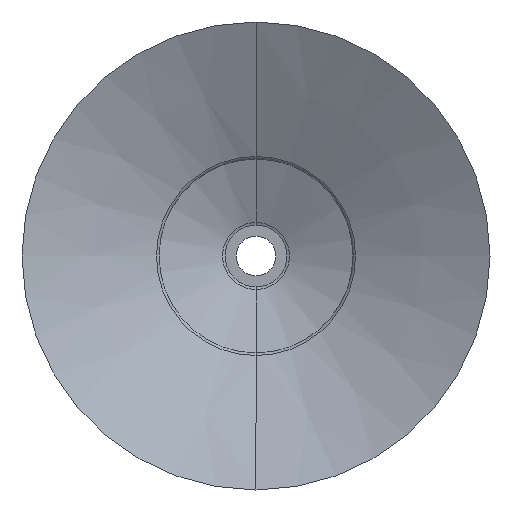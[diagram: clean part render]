
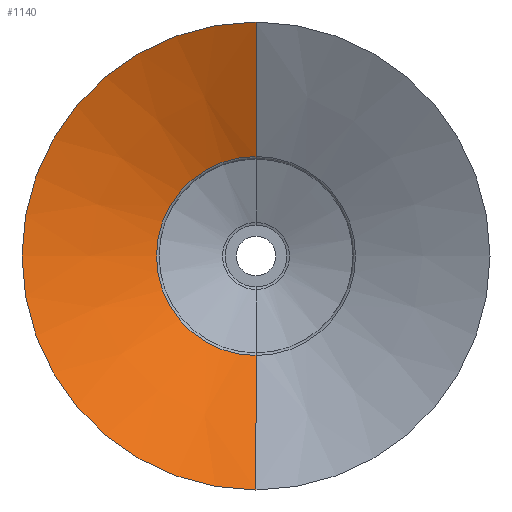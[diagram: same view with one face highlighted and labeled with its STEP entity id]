
A CAD part, front view. The second image highlights one B-rep face of the part: STEP entity #1140.
In plain terms, the highlighted conical face has half-angle 64.057 degrees and reference radius 9.977 mm.
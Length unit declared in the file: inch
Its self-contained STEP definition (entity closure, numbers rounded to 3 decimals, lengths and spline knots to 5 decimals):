
#28 = EDGE_CURVE ( 'NONE', #898, #1352, #762, .T. ) ;
#59 = CONICAL_SURFACE ( 'NONE', #2401, 0.39278, 1.118 ) ;
#101 = ORIENTED_EDGE ( 'NONE', *, *, #2704, .T. ) ;
#109 = CARTESIAN_POINT ( 'NONE',  ( -0.55118, 0., 0. ) ) ;
#128 = EDGE_CURVE ( 'NONE', #952, #1772, #795, .T. ) ;
#210 = VECTOR ( 'NONE', #528, 39.37008 ) ;
#397 = EDGE_CURVE ( 'NONE', #1352, #952, #1508, .T. ) ;
#528 = DIRECTION ( 'NONE',  ( 0.899, 0.437, 0. ) ) ;
#545 = DIRECTION ( 'NONE',  ( 0., -1., 0. ) ) ;
#603 = CARTESIAN_POINT ( 'NONE',  ( 0.55118, 0., 0. ) ) ;
#762 = CIRCLE ( 'NONE', #1224, 0.55118 ) ;
#779 = CARTESIAN_POINT ( 'NONE',  ( 0., 0.15412, 0. ) ) ;
#784 = LINE ( 'NONE', #109, #210 ) ;
#795 = CIRCLE ( 'NONE', #2696, 0.23438 ) ;
#805 = CARTESIAN_POINT ( 'NONE',  ( 0.55118, 0., 0. ) ) ;
#812 = CARTESIAN_POINT ( 'NONE',  ( -0.23438, 0.15412, 0. ) ) ;
#898 = VERTEX_POINT ( 'NONE', #1710 ) ;
#952 = VERTEX_POINT ( 'NONE', #1956 ) ;
#967 = CARTESIAN_POINT ( 'NONE',  ( 0., 0., 0. ) ) ;
#1033 = CARTESIAN_POINT ( 'NONE',  ( 0., 0.07706, 0. ) ) ;
#1140 = ADVANCED_FACE ( 'NONE', ( #2575 ), #59, .F. ) ;
#1224 = AXIS2_PLACEMENT_3D ( 'NONE', #967, #2599, #2617 ) ;
#1315 = ORIENTED_EDGE ( 'NONE', *, *, #128, .F. ) ;
#1352 = VERTEX_POINT ( 'NONE', #603 ) ;
#1389 = ORIENTED_EDGE ( 'NONE', *, *, #397, .F. ) ;
#1443 = DIRECTION ( 'NONE',  ( 0., -1., 0. ) ) ;
#1449 = VECTOR ( 'NONE', #1686, 39.37008 ) ;
#1508 = LINE ( 'NONE', #805, #1449 ) ;
#1686 = DIRECTION ( 'NONE',  ( -0.899, 0.437, 0. ) ) ;
#1710 = CARTESIAN_POINT ( 'NONE',  ( -0.55118, 0., 0. ) ) ;
#1772 = VERTEX_POINT ( 'NONE', #812 ) ;
#1956 = CARTESIAN_POINT ( 'NONE',  ( 0.23438, 0.15412, 0. ) ) ;
#2077 = DIRECTION ( 'NONE',  ( -1., 0., 0. ) ) ;
#2401 = AXIS2_PLACEMENT_3D ( 'NONE', #1033, #1443, #2077 ) ;
#2465 = DIRECTION ( 'NONE',  ( 1., 0., 0. ) ) ;
#2575 = FACE_OUTER_BOUND ( 'NONE', #2698, .T. ) ;
#2599 = DIRECTION ( 'NONE',  ( 0., 1., 0. ) ) ;
#2617 = DIRECTION ( 'NONE',  ( -1., 0., 0. ) ) ;
#2696 = AXIS2_PLACEMENT_3D ( 'NONE', #779, #545, #2465 ) ;
#2698 = EDGE_LOOP ( 'NONE', ( #1389, #2717, #101, #1315 ) ) ;
#2704 = EDGE_CURVE ( 'NONE', #898, #1772, #784, .T. ) ;
#2717 = ORIENTED_EDGE ( 'NONE', *, *, #28, .F. ) ;
